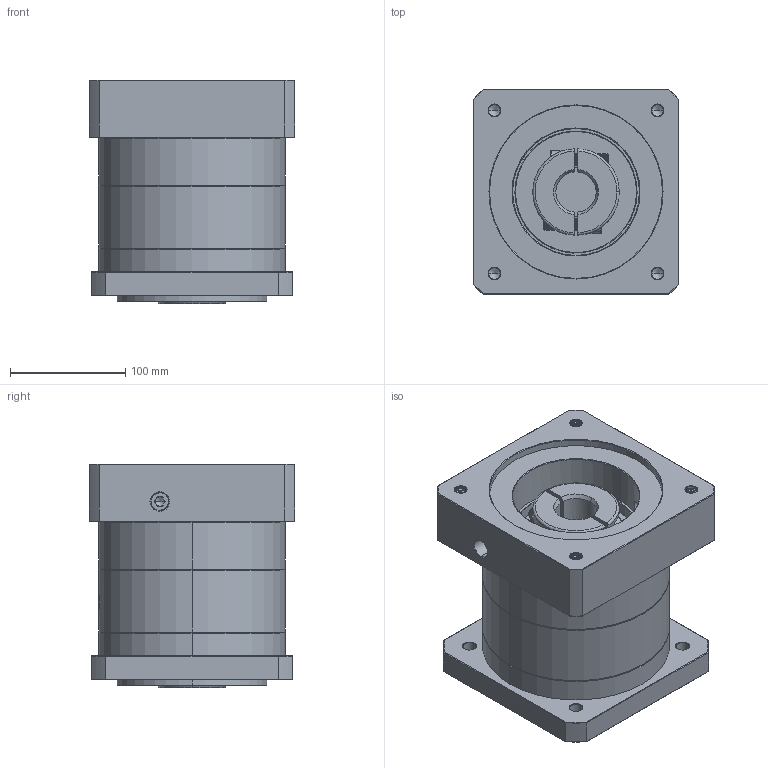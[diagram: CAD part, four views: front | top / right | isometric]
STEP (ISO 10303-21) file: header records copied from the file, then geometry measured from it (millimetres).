
FILE_DESCRIPTION (( 'STEP AP214' ), '1' );
FILE_NAME ('ZF160A-K35-L1-P2-35-150-200-M12.step', '2023-09-03T07:02:05', ( '' ), ( '' ), 'SwSTEP 2.0', 'SolidWorks 2016', '' );
FILE_SCHEMA (( 'AUTOMOTIVE_DESIGN' ));
Length unit declared in the file: millimetre
Products named in the file (1): ZF160A-K35-L1-P2-35-150-200-M12
Bounding box: 178 x 178 x 194.2 mm (x, y, z)
Volume: 4093402.6 mm3; surface area: 336170.4 mm2
Topology: 6 solids, 6 shells, 2128 faces, 5758 edges, 3734 vertices
Faces by surface type: plane 1010, bspline 404, cylinder 374, cone 320, torus 20
Entity records: 119068 total; most frequent: CARTESIAN_POINT 46969, ORIENTED_EDGE 11460, DIRECTION 8405, EDGE_CURVE 5730, VERTEX_POINT 3734, LINE 2993, VECTOR 2993, AXIS2_PLACEMENT_3D 2706
